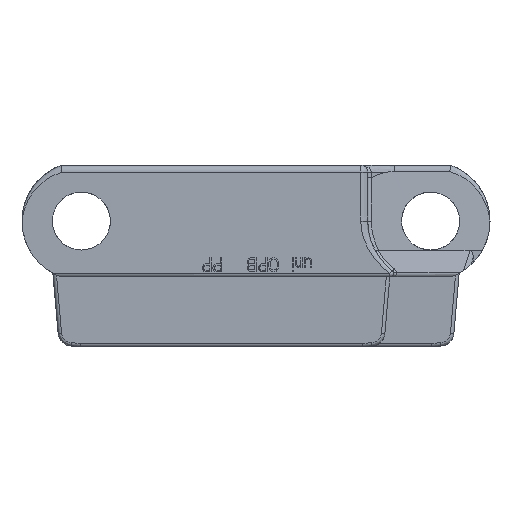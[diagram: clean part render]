
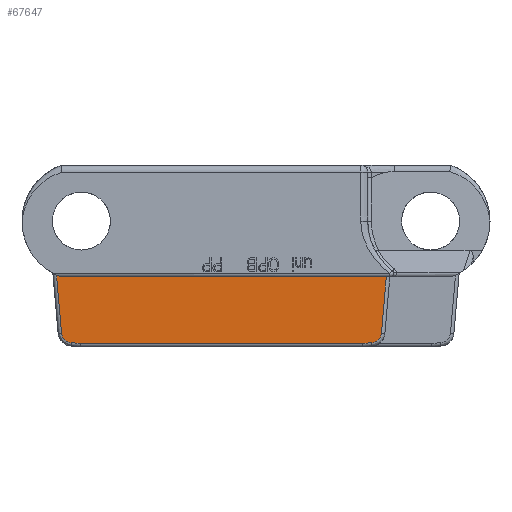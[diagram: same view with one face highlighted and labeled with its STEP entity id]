
A CAD part, left-side view. The second image highlights one B-rep face of the part: STEP entity #67647.
In plain terms, the highlighted planar face has unit normal (-1, 0, -0.018).
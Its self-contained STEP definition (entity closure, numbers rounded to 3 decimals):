
#1512=DIRECTION('',(0.,-1.,0.));
#1513=VECTOR('',#1512,46.528);
#1514=CARTESIAN_POINT('',(-70.7,27.872,-8.));
#1515=LINE('',#1514,#1513);
#19761=CARTESIAN_POINT('',(-70.7,27.872,-8.));
#19762=CARTESIAN_POINT('',(-70.701,28.106,
-7.916));
#19763=CARTESIAN_POINT('',(-70.703,28.335,
-7.822));
#19764=CARTESIAN_POINT('',(-70.705,28.56,
-7.719));
#19812=DIRECTION('',(-0.017,-0.087,0.996));
#19813=VECTOR('',#19812,8.086);
#19814=CARTESIAN_POINT('',(-70.559,-17.951,
-16.054));
#19815=LINE('',#19814,#19813);
#19819=CARTESIAN_POINT('',(-70.536,-16.561,
-17.419));
#19820=CARTESIAN_POINT('',(-70.536,-16.64,
-17.414));
#19821=CARTESIAN_POINT('',(-70.536,-16.795,
-17.391));
#19822=CARTESIAN_POINT('',(-70.537,-17.021,
-17.32));
#19823=CARTESIAN_POINT('',(-70.539,-17.232,
-17.214));
#19824=CARTESIAN_POINT('',(-70.542,-17.425,-17.077));
#19825=CARTESIAN_POINT('',(-70.544,-17.593,
-16.911));
#19826=CARTESIAN_POINT('',(-70.548,-17.734,
-16.721));
#19827=CARTESIAN_POINT('',(-70.551,-17.843,
-16.511));
#19828=CARTESIAN_POINT('',(-70.555,-17.918,
-16.287));
#19829=CARTESIAN_POINT('',(-70.558,-17.944,
-16.133));
#19830=CARTESIAN_POINT('',(-70.559,-17.951,
-16.054));
#19835=DIRECTION('',(-0.001,-0.998,0.07));
#19836=VECTOR('',#19835,1.282);
#19837=CARTESIAN_POINT('',(-70.534,-15.283,
-17.509));
#19838=LINE('',#19837,#19836);
#19842=DIRECTION('',(0.,1.,0.));
#19843=VECTOR('',#19842,40.445);
#19844=CARTESIAN_POINT('',(-70.534,-15.283,
-17.509));
#19845=LINE('',#19844,#19843);
#19849=DIRECTION('',(-0.001,0.998,0.07));
#19850=VECTOR('',#19849,1.282);
#19851=CARTESIAN_POINT('',(-70.534,25.163,
-17.509));
#19852=LINE('',#19851,#19850);
#19856=CARTESIAN_POINT('',(-70.536,26.441,
-17.419));
#19857=CARTESIAN_POINT('',(-70.536,26.52,
-17.414));
#19858=CARTESIAN_POINT('',(-70.536,26.675,
-17.391));
#19859=CARTESIAN_POINT('',(-70.537,26.901,
-17.32));
#19860=CARTESIAN_POINT('',(-70.539,27.112,
-17.214));
#19861=CARTESIAN_POINT('',(-70.542,27.305,
-17.077));
#19862=CARTESIAN_POINT('',(-70.544,27.473,
-16.911));
#19863=CARTESIAN_POINT('',(-70.548,27.614,
-16.721));
#19864=CARTESIAN_POINT('',(-70.551,27.723,
-16.511));
#19865=CARTESIAN_POINT('',(-70.555,27.798,
-16.287));
#19866=CARTESIAN_POINT('',(-70.558,27.824,
-16.132));
#19867=CARTESIAN_POINT('',(-70.559,27.831,
-16.054));
#19872=DIRECTION('',(-0.017,0.087,0.996));
#19873=VECTOR('',#19872,8.368);
#19874=CARTESIAN_POINT('',(-70.559,27.831,
-16.054));
#19875=LINE('',#19874,#19873);
#53505=VERTEX_POINT('',#19819);
#53506=VERTEX_POINT('',#19830);
#53509=CARTESIAN_POINT('',(-70.534,-15.283,
-17.509));
#53510=VERTEX_POINT('',#53509);
#53513=CARTESIAN_POINT('',(-70.534,25.163,
-17.509));
#53514=VERTEX_POINT('',#53513);
#53519=VERTEX_POINT('',#19856);
#53520=VERTEX_POINT('',#19867);
#53525=CARTESIAN_POINT('',(-70.7,27.872,-8.));
#53526=CARTESIAN_POINT('',(-70.7,-18.655,-8.));
#53527=VERTEX_POINT('',#53525);
#53528=VERTEX_POINT('',#53526);
#53541=VERTEX_POINT('',#19764);
#67625=CARTESIAN_POINT('',(-70.7,29.724,-8.));
#67626=DIRECTION('',(1.,0.,0.017));
#67627=DIRECTION('',(0.,-1.,0.));
#67628=AXIS2_PLACEMENT_3D('',#67625,#67626,#67627);
#67629=PLANE('',#67628);
#67630=ORIENTED_EDGE('',*,*,#54350,.T.);
#67632=ORIENTED_EDGE('',*,*,#67631,.F.);
#67634=ORIENTED_EDGE('',*,*,#67633,.F.);
#67636=ORIENTED_EDGE('',*,*,#67635,.F.);
#67638=ORIENTED_EDGE('',*,*,#67637,.T.);
#67640=ORIENTED_EDGE('',*,*,#67639,.T.);
#67642=ORIENTED_EDGE('',*,*,#67641,.T.);
#67643=ORIENTED_EDGE('',*,*,#67617,.T.);
#67644=ORIENTED_EDGE('',*,*,#67589,.F.);
#67645=EDGE_LOOP('',(#67630,#67632,#67634,#67636,#67638,#67640,#67642,#67643,
#67644));
#67646=FACE_OUTER_BOUND('',#67645,.F.);
#67647=ADVANCED_FACE('',(#67646),#67629,.F.);
#19765=B_SPLINE_CURVE_WITH_KNOTS('',3,(#19761,#19762,#19763,#19764),
.UNSPECIFIED.,.F.,.F.,(4,4),(0.,1.),.UNSPECIFIED.);
#19831=B_SPLINE_CURVE_WITH_KNOTS('',3,(#19819,#19820,#19821,#19822,#19823,
#19824,#19825,#19826,#19827,#19828,#19829,#19830),.UNSPECIFIED.,.F.,.F.,(4,1,1,
1,1,1,1,1,1,4),(0.,0.111,0.222,0.333,
0.444,0.556,0.667,0.778,
0.889,1.),.UNSPECIFIED.);
#19868=B_SPLINE_CURVE_WITH_KNOTS('',3,(#19856,#19857,#19858,#19859,#19860,
#19861,#19862,#19863,#19864,#19865,#19866,#19867),.UNSPECIFIED.,.F.,.F.,(4,1,1,
1,1,1,1,1,1,4),(0.,0.111,0.222,0.333,
0.444,0.556,0.667,0.778,
0.889,1.),.UNSPECIFIED.);
#54350=EDGE_CURVE('',#53527,#53528,#1515,.T.);
#67589=EDGE_CURVE('',#53527,#53541,#19765,.T.);
#67617=EDGE_CURVE('',#53520,#53541,#19875,.T.);
#67631=EDGE_CURVE('',#53506,#53528,#19815,.T.);
#67633=EDGE_CURVE('',#53505,#53506,#19831,.T.);
#67635=EDGE_CURVE('',#53510,#53505,#19838,.T.);
#67637=EDGE_CURVE('',#53510,#53514,#19845,.T.);
#67639=EDGE_CURVE('',#53514,#53519,#19852,.T.);
#67641=EDGE_CURVE('',#53519,#53520,#19868,.T.);
